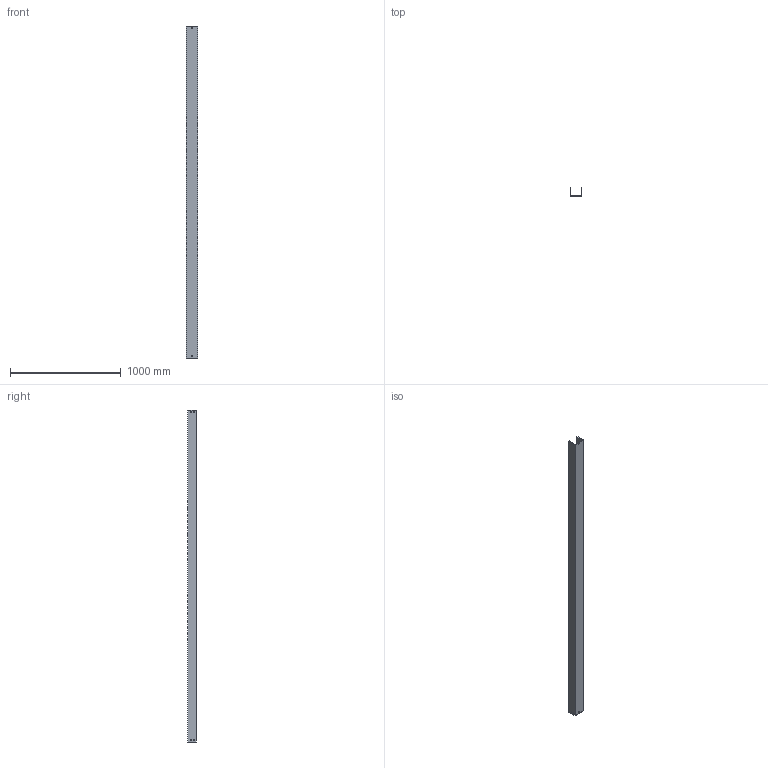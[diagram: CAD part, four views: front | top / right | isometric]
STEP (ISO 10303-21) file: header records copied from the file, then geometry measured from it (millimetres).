
FILE_DESCRIPTION (( 'STEP AP214' ), '1' );
FILE_NAME ('03B3C100.step', '2025-02-21T10:22:30', ( '' ), ( '' ), 'SwSTEP 2.0', 'SolidWorks 2023', '' );
FILE_SCHEMA (( 'AUTOMOTIVE_DESIGN' ));
Length unit declared in the file: millimetre
Products named in the file (1): 03B3C100
Bounding box: 104 x 79 x 3000 mm (x, y, z)
Volume: 2675130.5 mm3; surface area: 1552600 mm2
Topology: 1 solids, 1 shells, 50 faces, 144 edges, 96 vertices
Faces by surface type: plane 50
Entity records: 1671 total; most frequent: CARTESIAN_POINT 291, ORIENTED_EDGE 288, DIRECTION 246, VECTOR 144, EDGE_CURVE 144, LINE 144, VERTEX_POINT 96, EDGE_LOOP 70
